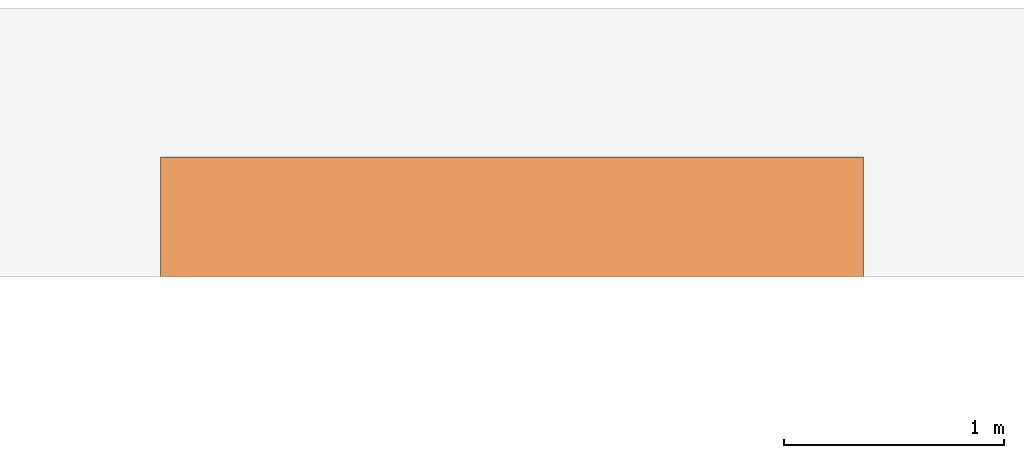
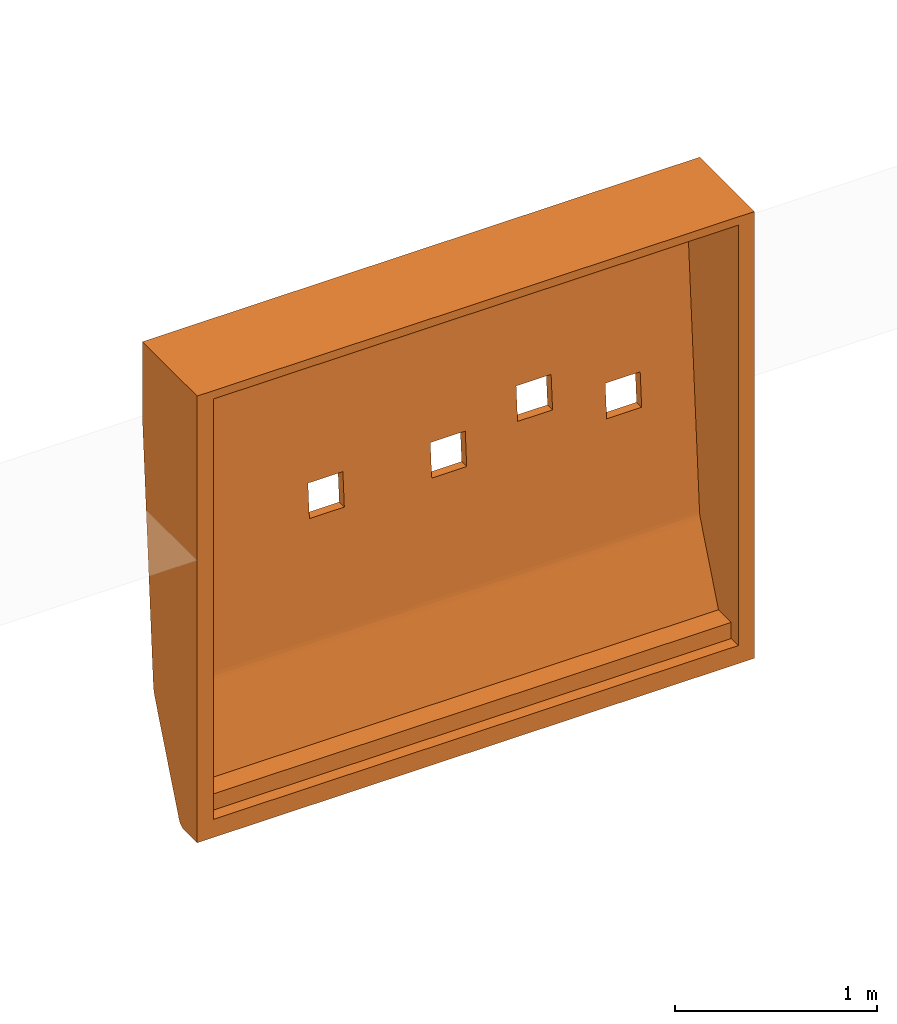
# One storey, part 19 of 19: 1 proxy.
"""IFC4 building model written with IfcOpenShell, lengths in metres."""

import ifcopenshell
import ifcopenshell.guid

model = None  # the IFC model being written
_history = None  # IfcOwnerHistory: only IFC2X3 demands one
_inside = {}  # id of a spatial element -> (the spatial element, [elements in it])
_under = {}  # id of a project, library or spatial element -> (it, [spatial elements below it])
_declared = {}  # id of a project -> (the project, [libraries it declares])
_typed = {}  # id of a type object -> (the type object, [elements of that type])
_made_of = {}  # id of a material, layer set ... -> (it, [elements and type objects made of it])


def new_model(schema):
    """Start an empty IFC model of exactly this schema.

    Asked for "IFC4X3", IfcOpenShell would pick the latest addendum, in which some entities
    have other attributes; the version numbers below select the first issue.
    IFC2X3 requires an IfcOwnerHistory on every rooted entity: one is made here for all.
    """
    global model, _history
    if schema == "IFC4X3":
        model = ifcopenshell.file(schema_version=(4, 3, 0, 0))
    else:
        model = ifcopenshell.file(schema=schema)
    _inside.clear()
    _under.clear()
    _declared.clear()
    _typed.clear()
    _made_of.clear()
    _history = None
    if model.schema == "IFC2X3":
        org = make("IfcOrganization", Name="unknown")
        user = make(
            "IfcPersonAndOrganization",
            ThePerson=make("IfcPerson", FamilyName="unknown"),
            TheOrganization=org,
        )
        app = make(
            "IfcApplication",
            ApplicationDeveloper=org,
            Version="unknown",
            ApplicationFullName="unknown",
            ApplicationIdentifier="unknown",
        )
        _history = make(
            "IfcOwnerHistory",
            OwningUser=user,
            OwningApplication=app,
            ChangeAction="ADDED",
            CreationDate=0,
        )
    return model


def make(cls, **values):
    """One entity of the class cls with the attributes given. An attribute that is None is left unset."""
    return model.create_entity(
        cls, **{name: value for name, value in values.items() if value is not None}
    )


def entity(cls, *values):
    """Any entity or typed value of the class cls, its attributes in the order of the schema. None: left unset."""
    e = model.create_entity(cls)
    for i, value in enumerate(values):
        if value is not None:
            e[i] = value
    return e


def rooted(cls, **values):
    """An entity with a GlobalId (a new one), such as an element, a storey or a relation."""
    return make(cls, GlobalId=ifcopenshell.guid.new(), OwnerHistory=_history, **values)


def si_unit(unit_type, name, prefix=None):
    """IfcSIUnit, for example si_unit("LENGTHUNIT", "METRE", prefix="MILLI")."""
    return make("IfcSIUnit", UnitType=unit_type, Prefix=prefix, Name=name)


def converted_unit(unit_type, name, factor, base, dimensions=None, offset=None):
    """IfcConversionBasedUnit, such as the inch: factor (a typed value) times the base unit."""
    return make(
        "IfcConversionBasedUnit"
        if offset is None
        else "IfcConversionBasedUnitWithOffset",
        ConversionOffset=offset,
        Dimensions=None
        if dimensions is None
        else entity("IfcDimensionalExponents", *dimensions),
        UnitType=unit_type,
        Name=name,
        ConversionFactor=make(
            "IfcMeasureWithUnit", ValueComponent=factor, UnitComponent=base
        ),
    )


def derived_unit(unit_type, elements):
    """IfcDerivedUnit: a product of units, each with its exponent."""
    return make(
        "IfcDerivedUnit",
        Elements=[
            make("IfcDerivedUnitElement", Unit=unit, Exponent=power)
            for unit, power in elements
        ],
        UnitType=unit_type,
    )


def assignment(units):
    """IfcUnitAssignment: the units of a project."""
    return None if units is None else make("IfcUnitAssignment", Units=units)


def point(xyz):
    """IfcCartesianPoint."""
    return None if xyz is None else make("IfcCartesianPoint", Coordinates=xyz)


def direction(xyz):
    """IfcDirection."""
    return None if xyz is None else make("IfcDirection", DirectionRatios=xyz)


def frame(location, z_axis=None, x_axis=None):
    """IfcAxis2Placement3D, a coordinate frame: its origin and axes. An axis left out is left unset."""
    return make(
        "IfcAxis2Placement3D",
        Location=point(location),
        Axis=direction(z_axis),
        RefDirection=direction(x_axis),
    )


def origin():
    """The frame at (0, 0, 0) with its axes left unset."""
    return frame((0.0, 0.0, 0.0))


def place(relative_to, where):
    """IfcLocalPlacement: puts the frame where relative to a parent placement (None: the world)."""
    return make(
        "IfcLocalPlacement", PlacementRelTo=relative_to, RelativePlacement=where
    )


def context(
    kind, dimensions, precision=None, world=None, true_north=None, identifier=None
):
    """IfcGeometricRepresentationContext, for example the 3D "Model" context."""
    return make(
        "IfcGeometricRepresentationContext",
        ContextIdentifier=identifier,
        ContextType=kind,
        CoordinateSpaceDimension=dimensions,
        Precision=precision,
        WorldCoordinateSystem=world,
        TrueNorth=true_north,
    )


def subcontext(parent, identifier, kind, view, scale=None):
    """IfcGeometricRepresentationSubContext, for example "Body" below "Model"."""
    return make(
        "IfcGeometricRepresentationSubContext",
        ContextIdentifier=identifier,
        ContextType=kind,
        ParentContext=parent,
        TargetScale=scale,
        TargetView=view,
    )


def project(units=None, contexts=None):
    """IfcProject with its units and contexts."""
    return rooted(
        "IfcProject",
        Name="project",
        RepresentationContexts=contexts,
        UnitsInContext=assignment(units),
    )


def spatial(cls, under=None, at=None, **own):
    """A site, building, storey or space (cls), placed at a placement, below another one or the project."""
    s = rooted(cls, ObjectPlacement=at, **own)
    if under is not None:
        _under.setdefault(under.id(), (under, []))[1].append(s)
    return s


def point_list(points):
    """IfcCartesianPointList2D or 3D."""
    cls = (
        "IfcCartesianPointList2D" if len(points[0]) == 2 else "IfcCartesianPointList3D"
    )
    return make(cls, CoordList=points)


def polygons(points, faces, closed=None, point_numbers=None):
    """IfcPolygonalFaceSet: a face is its outer loop, then its inner loops; points numbered from 1."""
    made = []
    for loops in faces:
        if len(loops) == 1:
            made.append(make("IfcIndexedPolygonalFace", CoordIndex=loops[0]))
        else:
            made.append(
                make(
                    "IfcIndexedPolygonalFaceWithVoids",
                    CoordIndex=loops[0],
                    InnerCoordIndices=loops[1:],
                )
            )
    return make(
        "IfcPolygonalFaceSet",
        Coordinates=point_list(points),
        Closed=closed,
        Faces=made,
        PnIndex=point_numbers,
    )


def shape(context_of_items, identifier, shape_type, items):
    """IfcShapeRepresentation: the items that make up one representation, for example the "Body"."""
    return make(
        "IfcShapeRepresentation",
        ContextOfItems=context_of_items,
        RepresentationIdentifier=identifier,
        RepresentationType=shape_type,
        Items=items,
    )


def source(mapping_origin, context_of_items, identifier, shape_type, items):
    """IfcRepresentationMap: a shape defined once, which mapped items show again and again."""
    return make(
        "IfcRepresentationMap",
        MappingOrigin=mapping_origin,
        MappedRepresentation=shape(context_of_items, identifier, shape_type, items),
    )


def transform(
    local_origin,
    x_axis=None,
    y_axis=None,
    z_axis=None,
    scale=None,
    scale2=None,
    scale3=None,
    uniform=True,
):
    """IfcCartesianTransformationOperator3D, or its non-uniform kind. x_axis, y_axis, z_axis: its Axis1, 2, 3."""
    if uniform:
        return make(
            "IfcCartesianTransformationOperator3D",
            Axis1=direction(x_axis),
            Axis2=direction(y_axis),
            LocalOrigin=point(local_origin),
            Scale=scale,
            Axis3=direction(z_axis),
        )
    return make(
        "IfcCartesianTransformationOperator3DnonUniform",
        Axis1=direction(x_axis),
        Axis2=direction(y_axis),
        LocalOrigin=point(local_origin),
        Scale=scale,
        Axis3=direction(z_axis),
        Scale2=scale2,
        Scale3=scale3,
    )


def mapped(mapping_source, mapping_target):
    """IfcMappedItem: shows the shape of a source again, moved by a transform."""
    return make(
        "IfcMappedItem", MappingSource=mapping_source, MappingTarget=mapping_target
    )


def material(Name=None, Category=None):
    """IfcMaterial."""
    return make("IfcMaterial", Name=Name, Category=Category)


def made_of(thing, what):
    """Note that an element or type object is made of a material, layer set ...; save() writes the relation."""
    if what is not None:
        _made_of.setdefault(what.id(), (what, []))[1].append(thing)
    return thing


def type_object(cls, material=None, **own):
    """A type object (cls), such as IfcWallType, which elements share."""
    return made_of(rooted(cls, **own), material)


def type_shapes(of_type, sources):
    """Give a type object the sources (RepresentationMaps) that its elements show as mapped items."""
    of_type.RepresentationMaps = sources


def element(
    cls,
    number,
    at=None,
    inside=None,
    cuts=None,
    type_object=None,
    material=None,
    context=None,
    identifier="Body",
    shape_type=None,
    held_by="IfcProductDefinitionShape",
    body=None,
    shapes=None,
    **own,
):
    """One element of the class cls, such as IfcWall. Its Tag is "e" and its number.

    at: its placement. inside: the storey or other place that contains it. cuts: it is an
    opening in that element (IfcRelVoidsElement). A single representation is given by context,
    identifier, shape_type and body (its items); several are given by shapes. held_by: the class
    of the entity that holds the representations. save() writes the other relations.
    """
    e = rooted(cls, Tag="e%d" % number, ObjectPlacement=at, **own)
    if body is not None:
        shapes = [shape(context, identifier, shape_type, body)]
    if shapes is not None:
        e.Representation = make(held_by, Representations=shapes)
    if inside is not None:
        _inside.setdefault(inside.id(), (inside, []))[1].append(e)
    if cuts is not None:
        rooted(
            "IfcRelVoidsElement", RelatingBuildingElement=cuts, RelatedOpeningElement=e
        )
    if type_object is not None:
        _typed.setdefault(type_object.id(), (type_object, []))[1].append(e)
    return made_of(e, material)


def aggregate(whole, parts):
    """IfcRelAggregates: a whole, such as a stair, and the parts it consists of."""
    return rooted("IfcRelAggregates", RelatingObject=whole, RelatedObjects=parts)


def save(model, path):
    """Write the relations noted so far, then the file.

    IfcRelAggregates (storeys below a building ...), IfcRelContainedInSpatialStructure (elements
    in a storey), IfcRelDefinesByType, IfcRelAssociatesMaterial and IfcRelDeclares: one each for
    every whole, place, type object, material and project.
    """
    for whole, parts in _under.values():
        aggregate(whole, parts)
    for where, things in _inside.values():
        rooted(
            "IfcRelContainedInSpatialStructure",
            RelatedElements=things,
            RelatingStructure=where,
        )
    for kind, things in _typed.values():
        rooted("IfcRelDefinesByType", RelatedObjects=things, RelatingType=kind)
    for what, things in _made_of.values():
        rooted("IfcRelAssociatesMaterial", RelatedObjects=things, RelatingMaterial=what)
    for by, libraries in _declared.values():
        rooted("IfcRelDeclares", RelatingContext=by, RelatedDefinitions=libraries)
    model.write(path)


model = new_model("IFC4")

# Units and contexts
model_context = context("Model", 3, precision=1e-05, world=origin(), true_north=direction((6.12303176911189e-17, 1.0)))
body_context = subcontext(model_context, "Body", "Model", "MODEL_VIEW")
ifc_project = project(units=[si_unit("LENGTHUNIT", "METRE"), si_unit("AREAUNIT", "SQUARE_METRE"), si_unit("VOLUMEUNIT", "CUBIC_METRE"), converted_unit("PLANEANGLEUNIT", "DEGREE", entity("IfcRatioMeasure", 0.0174532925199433), si_unit("PLANEANGLEUNIT", "RADIAN"), dimensions=[0, 0, 0, 0, 0, 0, 0]), si_unit("MASSUNIT", "GRAM", prefix="KILO"), derived_unit("MASSDENSITYUNIT", [(si_unit("MASSUNIT", "GRAM", prefix="KILO"), 1), (si_unit("LENGTHUNIT", "METRE"), -3)]), derived_unit("MOMENTOFINERTIAUNIT", [(si_unit("LENGTHUNIT", "METRE"), 4)]), si_unit("TIMEUNIT", "SECOND"), si_unit("FREQUENCYUNIT", "HERTZ"), si_unit("THERMODYNAMICTEMPERATUREUNIT", "DEGREE_CELSIUS"), derived_unit("THERMALTRANSMITTANCEUNIT", [(si_unit("MASSUNIT", "GRAM", prefix="KILO"), 1), (si_unit("THERMODYNAMICTEMPERATUREUNIT", "KELVIN"), -1), (si_unit("TIMEUNIT", "SECOND"), -3)]), derived_unit("VOLUMETRICFLOWRATEUNIT", [(si_unit("LENGTHUNIT", "METRE"), 3), (si_unit("TIMEUNIT", "SECOND"), -1)]), si_unit("ELECTRICCURRENTUNIT", "AMPERE"), si_unit("ELECTRICVOLTAGEUNIT", "VOLT"), si_unit("POWERUNIT", "WATT"), si_unit("FORCEUNIT", "NEWTON", prefix="KILO"), si_unit("ILLUMINANCEUNIT", "LUX"), si_unit("LUMINOUSFLUXUNIT", "LUMEN"), si_unit("LUMINOUSINTENSITYUNIT", "CANDELA"), derived_unit("USERDEFINED", [(si_unit("MASSUNIT", "GRAM", prefix="KILO"), -1), (si_unit("LENGTHUNIT", "METRE"), -2), (si_unit("TIMEUNIT", "SECOND"), 3), (si_unit("LUMINOUSFLUXUNIT", "LUMEN"), 1)]), derived_unit("LINEARVELOCITYUNIT", [(si_unit("LENGTHUNIT", "METRE"), 1), (si_unit("TIMEUNIT", "SECOND"), -1)]), si_unit("PRESSUREUNIT", "PASCAL"), derived_unit("USERDEFINED", [(si_unit("LENGTHUNIT", "METRE"), -2), (si_unit("MASSUNIT", "GRAM", prefix="KILO"), 1), (si_unit("TIMEUNIT", "SECOND"), -2)]), derived_unit("LINEARFORCEUNIT", [(si_unit("MASSUNIT", "GRAM", prefix="KILO"), 1), (si_unit("LENGTHUNIT", "METRE"), 1), (si_unit("TIMEUNIT", "SECOND"), -2), (si_unit("LENGTHUNIT", "METRE"), -1)]), derived_unit("PLANARFORCEUNIT", [(si_unit("MASSUNIT", "GRAM", prefix="KILO"), 1), (si_unit("LENGTHUNIT", "METRE"), 1), (si_unit("TIMEUNIT", "SECOND"), -2), (si_unit("LENGTHUNIT", "METRE"), -2)])], contexts=[model_context])

# Site, building, storey
site_placement = place(None, origin())
site = spatial("IfcSite", under=ifc_project, at=site_placement, Name="Default", CompositionType="ELEMENT")
building_placement = place(site_placement, origin())
building = spatial("IfcBuilding", under=site, at=building_placement, Name="HOTEL CONSULAIRE BOULOGNE SUR MER", CompositionType="ELEMENT")
storey_placement = place(building_placement, frame((0.0, 0.0, -4.01003075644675)))
storey = spatial("IfcBuildingStorey", under=building, at=storey_placement, Name="SS2", CompositionType="ELEMENT", Elevation=-4.01003075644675)

# Proxy
ifc_material = material(Name="PEINTURE ROSE")
building_element_proxy_type = type_object("IfcBuildingElementProxyType", Name="cabine de projection:cabine de projection", PredefinedType="NOTDEFINED", material=ifc_material)
shared_shape = source(origin(), body_context, "Body", "Tessellation", [
    polygons([(3.09942939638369, 0.0700000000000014, 0.111065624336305), (3.09942939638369, 0.0, 0.111065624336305), (3.09942939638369, 0.0, 0.00159527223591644), (3.09942939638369, 0.131028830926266, 0.0015952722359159), (3.09942939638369, 0.143256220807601, 0.00305330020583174), (3.09942939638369, 0.15479792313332, 0.00734562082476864), (3.09942939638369, 0.16500670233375, 0.0142315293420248), (3.09942939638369, 0.173310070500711, 0.0233248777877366), (3.09942939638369, 0.179242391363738, 0.0341157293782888), (3.09942939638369, 0.421371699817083, 0.633406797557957), (3.09942939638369, 0.430006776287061, 0.660793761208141), (3.09942939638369, 0.43425127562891, 0.689194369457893), (3.09942939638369, 0.5432430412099, 2.24784923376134), (3.09942939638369, 0.5432430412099, 2.70713574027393), (3.09942939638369, 0.0, 2.70713574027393), (3.09942939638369, 0.0, 2.65713574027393), (3.09942939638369, 0.44703769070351, 2.65713574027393), (3.09942939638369, 0.44703769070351, 2.34259527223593), (3.09942939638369, 0.493243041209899, 2.34259527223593), (3.09942939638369, 0.493243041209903, 2.24959527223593), (3.09942939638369, 0.38437307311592, 0.6926821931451), (3.09942939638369, 0.381288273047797, 0.672041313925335), (3.09942939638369, 0.37501250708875, 0.652137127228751), (3.09942939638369, 0.196000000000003, 0.209065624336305), (3.09942939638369, 0.0700000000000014, 0.209065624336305), (0.0928703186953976, 0.0700000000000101, 0.111065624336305), (0.0928703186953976, 0.0700000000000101, 0.209065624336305), (0.0928703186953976, 0.196000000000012, 0.209065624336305), (0.0928703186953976, 0.375012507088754, 0.652137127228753), (0.0928703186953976, 0.381288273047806, 0.672041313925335), (0.0928703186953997, 0.384373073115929, 0.692682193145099), (0.0928703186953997, 0.493243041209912, 2.24959527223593), (0.0928703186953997, 0.493243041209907, 2.34259527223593), (0.0928703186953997, 0.447037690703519, 2.34259527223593), (0.0928703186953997, 0.447037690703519, 2.65713574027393), (0.0928703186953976, 8.66293703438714e-15, 2.65713574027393), (0.0928703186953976, 8.66293703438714e-15, 2.70713574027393), (0.0928703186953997, 0.543243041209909, 2.70713574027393), (0.0928703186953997, 0.543243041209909, 2.24784923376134), (0.0928703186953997, 0.434251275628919, 0.689194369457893), (0.0928703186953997, 0.430006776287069, 0.660793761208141), (0.0928703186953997, 0.421371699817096, 0.633406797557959), (0.0928703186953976, 0.179242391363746, 0.0341157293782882), (0.0928703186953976, 0.17331007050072, 0.0233248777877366), (0.0928703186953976, 0.165006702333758, 0.0142315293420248), (0.0928703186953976, 0.154797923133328, 0.00734562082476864), (0.0928703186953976, 0.143256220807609, 0.00305330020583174), (0.0928703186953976, 0.131028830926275, 0.0015952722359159), (0.0928703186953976, 8.66293703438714e-15, 0.00159527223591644), (0.0928703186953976, 8.66293703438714e-15, 0.111065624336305), (1.0851081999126, 0.179242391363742, 0.0341157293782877), (1.59614985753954, 0.13102883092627, 0.0015952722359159), (1.10003263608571, 0.13102883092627, 0.0015952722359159), (2.09226879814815, 0.179242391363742, 0.0341157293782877), (2.09226707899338, 0.13102883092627, 0.0015952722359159), (0.807353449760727, 0.160106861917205, 0.0104853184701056), (2.38071952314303, 0.160106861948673, 0.0104853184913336), (0.596453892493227, 0.179242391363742, 0.0341157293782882), (0.596450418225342, 0.131028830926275, 0.0015952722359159), (2.59584909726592, 0.179242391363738, 0.0341157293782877), (2.59584929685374, 0.131028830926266, 0.0015952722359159), (0.488018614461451, 0.169428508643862, 0.0185315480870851), (0.488018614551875, 0.149154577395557, 0.0048566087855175), (2.70421961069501, 0.169428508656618, 0.0185315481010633), (2.7042196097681, 0.149154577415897, 0.0048566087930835), (1.34809086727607, 0.153574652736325, 0.00673712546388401), (0.358985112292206, 0.160106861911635, 0.0104853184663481), (2.83329452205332, 0.16010686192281, 0.0104853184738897), (0.34466374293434, 0.179242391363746, 0.0341157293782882), (0.344661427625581, 0.131028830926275, 0.0015952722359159), (2.8476392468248, 0.179242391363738, 0.0341157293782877), (2.8476382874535, 0.131028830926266, 0.0015952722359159), (1.84420884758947, 0.150547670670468, 0.00539760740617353), (1.58868849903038, 0.179242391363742, 0.0341157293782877), (1.84047744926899, 0.16892870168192, 0.0179919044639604), (0.853897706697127, 0.144312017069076, 0.00332045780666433), (0.850587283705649, 0.172558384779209, 0.0223015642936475), (1.28258485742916, 0.169610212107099, 0.0187315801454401), (2.33860749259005, 0.172676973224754, 0.0224595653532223), (2.34405822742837, 0.143927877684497, 0.00322053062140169), (0.470555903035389, 0.17549634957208, 0.026639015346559), (0.470555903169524, 0.139364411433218, 0.00226771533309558), (2.72174381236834, 0.175496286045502, 0.0266389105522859), (2.72174381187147, 0.139364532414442, 0.00226773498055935), (1.34809124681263, 0.13102883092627, 0.0015952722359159), (1.22406137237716, 0.142591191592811, 0.00289702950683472), (1.06163108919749, 0.15285685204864, 0.00639847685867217), (1.50900643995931, 0.143396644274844, 0.00308747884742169), (1.06832477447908, 0.16368545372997, 0.0131286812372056), (1.60138656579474, 0.153574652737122, 0.00673712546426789), (1.47473871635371, 0.163043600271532, 0.0126190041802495), (1.56532128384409, 0.17213354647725, 0.0217455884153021), (1.78453914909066, 0.160403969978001, 0.0106872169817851), (2.08347516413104, 0.162656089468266, 0.0123191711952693), (1.33689834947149, 0.179242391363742, 0.0341157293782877), (1.84420846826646, 0.13102883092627, 0.0015952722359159), (1.9682383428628, 0.140971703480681, 0.00255470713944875), (2.12131457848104, 0.151123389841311, 0.00563478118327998), (1.73415248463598, 0.140478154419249, 0.00246103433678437), (1.21100147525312, 0.175428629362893, 0.0265276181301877), (1.06527408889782, 0.170959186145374, 0.0202851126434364), (1.84047864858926, 0.179242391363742, 0.0341157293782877), (1.96637264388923, 0.174833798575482, 0.0255751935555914), (1.74969722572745, 0.175138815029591, 0.0260578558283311), (0.583169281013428, 0.162265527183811, 0.0120228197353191), (2.60700702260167, 0.157912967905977, 0.00908411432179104), (0.848241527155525, 0.13102883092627, 0.0015952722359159), (0.840781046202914, 0.179242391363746, 0.0341157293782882), (2.34405894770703, 0.179242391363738, 0.0341157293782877), (2.34405818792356, 0.13102883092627, 0.00159527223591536), (1.26905670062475, 0.161298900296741, 0.0113137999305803), (1.98226662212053, 0.421371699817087, 0.633406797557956), (1.5961548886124, 0.434251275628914, 0.689194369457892), (2.3477971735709, 0.43425127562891, 0.689194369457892), (2.62708209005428, 0.43425127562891, 0.689194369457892), (1.037563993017, 0.421371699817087, 0.633406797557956), (2.54084800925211, 0.421371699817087, 0.633406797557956), (2.26155731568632, 0.421371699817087, 0.633406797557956), (0.844512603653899, 0.434251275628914, 0.689194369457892), (1.5099108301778, 0.421371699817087, 0.633406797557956), (0.565217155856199, 0.421371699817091, 0.633406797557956), (0.468691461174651, 0.434251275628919, 0.689194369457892), (2.86325597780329, 0.421371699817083, 0.633406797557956), (0.329043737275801, 0.421371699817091, 0.633406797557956), (2.86326077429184, 0.43425127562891, 0.689194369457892), (0.329049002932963, 0.434251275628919, 0.689194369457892), (0.398867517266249, 0.430006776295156, 0.66079376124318), (0.656602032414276, 0.434251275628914, 0.689194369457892), (0.801390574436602, 0.421371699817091, 0.633406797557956), (0.750555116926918, 0.43024495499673, 0.66183939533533), (1.22033374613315, 0.434251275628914, 0.689194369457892), (0.980663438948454, 0.430579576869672, 0.663358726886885), (1.2737374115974, 0.421371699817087, 0.633406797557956), (1.40824431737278, 0.43425127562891, 0.689194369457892), (1.31428494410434, 0.430280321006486, 0.661997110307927), (1.97197603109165, 0.434251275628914, 0.689194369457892), (2.74516762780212, 0.430006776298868, 0.660793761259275), (2.52904235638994, 0.430365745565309, 0.662380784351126), (2.12191179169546, 0.430121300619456, 0.661293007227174), (1.90505175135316, 0.42994925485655, 0.660545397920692), (1.7460842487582, 0.421371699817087, 0.633406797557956), (1.62800465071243, 0.429494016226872, 0.658632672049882), (1.78406545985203, 0.434251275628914, 0.689194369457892), (1.03242317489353, 0.434251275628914, 0.689194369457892), (2.32582987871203, 0.429669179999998, 0.659357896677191), (2.15988660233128, 0.434251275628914, 0.689194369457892), (2.59636625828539, 0.498192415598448, 1.6035952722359), (2.59636625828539, 0.483787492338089, 1.39759527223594), (2.79636625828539, 0.483787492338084, 1.39759527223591), (2.79636625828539, 0.498192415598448, 1.60359527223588), (2.09239365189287, 0.508966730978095, 1.75767516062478), (2.09239365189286, 0.494561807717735, 1.55167516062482), (2.29239365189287, 0.494561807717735, 1.5516751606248), (2.29239365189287, 0.508966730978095, 1.75767516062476), (1.59404003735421, 0.497643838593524, 1.59575025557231), (1.59404003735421, 0.48323891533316, 1.38975025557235), (1.79404003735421, 0.48323891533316, 1.38975025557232), (1.79404003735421, 0.497643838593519, 1.59575025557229), (0.893040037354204, 0.497643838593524, 1.59575025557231), (0.893040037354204, 0.483238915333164, 1.38975025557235), (1.0930400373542, 0.48323891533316, 1.38975025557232), (1.0930400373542, 0.497643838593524, 1.59575025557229), (2.59636625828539, 0.43366539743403, 1.39759527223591), (2.59636625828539, 0.448070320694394, 1.6035952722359), (2.79636625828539, 0.448070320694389, 1.6035952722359), (2.79636625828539, 0.433665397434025, 1.3975952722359), (2.09239365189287, 0.444439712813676, 1.55167516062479), (2.09239365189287, 0.45884463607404, 1.75767516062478), (2.29239365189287, 0.45884463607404, 1.75767516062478), (2.29239365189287, 0.444439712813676, 1.55167516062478), (1.59404003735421, 0.433116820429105, 1.38975025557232), (1.59404003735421, 0.447521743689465, 1.59575025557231), (1.79404003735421, 0.447521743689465, 1.59575025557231), (1.79404003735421, 0.433116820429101, 1.38975025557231), (0.893040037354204, 0.433116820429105, 1.38975025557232), (0.893040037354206, 0.447521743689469, 1.59575025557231), (1.0930400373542, 0.447521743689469, 1.59575025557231), (1.0930400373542, 0.433116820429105, 1.38975025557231), (1.48869732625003, 0.384373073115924, 0.6926821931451), (1.59614987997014, 0.37501250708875, 0.652137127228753), (0.844510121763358, 0.37501250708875, 0.652137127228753), (0.495553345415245, 0.375012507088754, 0.652137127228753), (2.29406344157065, 0.384373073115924, 0.6926821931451), (0.790783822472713, 0.384373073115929, 0.6926821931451), (2.34778963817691, 0.37501250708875, 0.652137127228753), (0.44182699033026, 0.384373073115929, 0.6926821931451), (2.69674649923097, 0.38437307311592, 0.6926821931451), (2.7236095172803, 0.375012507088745, 0.652137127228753), (2.5356996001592, 0.375012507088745, 0.652137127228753), (0.294211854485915, 0.375012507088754, 0.652137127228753), (2.89808786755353, 0.38437307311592, 0.6926821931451), (2.89808790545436, 0.375012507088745, 0.652137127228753), (1.97196975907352, 0.37501250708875, 0.652137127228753), (1.89138038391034, 0.38437307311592, 0.6926821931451), (2.0927219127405, 0.384373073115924, 0.6926821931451), (0.294211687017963, 0.384373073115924, 0.6926821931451), (1.22033000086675, 0.37501250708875, 0.652137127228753), (1.13974065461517, 0.384373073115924, 0.6926821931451), (1.3142189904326, 0.384373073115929, 0.6926821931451), (1.40823991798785, 0.37501250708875, 0.652137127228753), (0.368019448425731, 0.381288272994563, 0.672041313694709), (2.49540497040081, 0.384373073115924, 0.6926821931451), (2.81084870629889, 0.381288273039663, 0.672041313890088), (2.15987967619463, 0.37501250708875, 0.652137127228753), (0.616305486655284, 0.384373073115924, 0.6926821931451), (0.670031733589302, 0.375012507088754, 0.652137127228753), (2.64986727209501, 0.381113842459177, 0.671295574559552), (0.582792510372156, 0.380934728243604, 0.670549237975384), (0.743793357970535, 0.381114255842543, 0.671297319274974), (0.965262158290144, 0.384373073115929, 0.6926821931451), (1.03242008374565, 0.375012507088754, 0.652137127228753), (1.22697981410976, 0.381678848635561, 0.673786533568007), (1.38473610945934, 0.381519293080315, 0.673060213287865), (1.06787836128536, 0.381492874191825, 0.672941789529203), (0.904137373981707, 0.381297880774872, 0.672082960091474), (1.54262727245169, 0.381290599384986, 0.672051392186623), (1.78405984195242, 0.37501250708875, 0.652137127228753), (1.69003885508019, 0.384373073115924, 0.6926821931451), (2.44174460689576, 0.380964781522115, 0.670673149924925), (2.28680434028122, 0.381090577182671, 0.671197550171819), (2.06592472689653, 0.380843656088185, 0.670176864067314), (1.91056512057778, 0.381104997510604, 0.671258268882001), (0.230444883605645, 0.380475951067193, 0.668718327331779), (2.95513905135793, 0.381753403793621, 0.674132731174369), (1.75403548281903, 0.381456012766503, 0.672777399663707)], [[[14, 15, 16, 17, 18, 19, 20, 21, 22, 23, 24, 25, 1, 2, 3, 4, 5, 6, 7, 8, 9, 10, 11, 12, 13]], [[148, 147, 164, 163]], [[152, 151, 168, 167]], [[156, 155, 172, 171]], [[160, 159, 176, 175]], [[43, 44, 45, 46, 47, 48, 49, 50, 26, 27, 28, 29, 30, 31, 32, 33, 34, 35, 36, 37, 38, 39, 40, 41, 42]], [[149, 166, 165, 150]], [[153, 170, 169, 154]], [[157, 174, 173, 158]], [[161, 178, 177, 162]], [[2, 1, 26, 50]], [[15, 14, 38, 37]], [[25, 24, 28, 27]], [[149, 148, 163, 166]], [[153, 152, 167, 170]], [[156, 171, 174, 157]], [[160, 175, 178, 161]], [[3, 2, 50, 49]], [[16, 15, 37, 36]], [[18, 17, 35, 34]], [[20, 19, 33, 32]], [[1, 25, 27, 26]], [[4, 3, 49, 48, 70, 59, 107, 53, 85, 52, 96, 55, 110, 61, 72]], [[17, 16, 36, 35]], [[19, 18, 34, 33]], [[147, 150, 165, 164]], [[151, 154, 169, 168]], [[155, 158, 173, 172]], [[159, 162, 177, 176]], [[84, 80, 65]], [[82, 47, 63]], [[46, 45, 67]], [[45, 44, 62]], [[65, 6, 5]], [[63, 47, 46]], [[76, 59, 82]], [[63, 46, 67]], [[56, 105, 77]], [[85, 86, 88]], [[105, 63, 67]], [[88, 52, 85]], [[84, 72, 61]], [[85, 53, 86]], [[97, 99, 73]], [[66, 91, 90]], [[60, 83, 79]], [[8, 7, 64]], [[89, 111, 87]], [[5, 4, 72]], [[70, 48, 47]], [[44, 43, 69]], [[71, 9, 8]], [[64, 7, 68]], [[83, 8, 64]], [[81, 69, 58]], [[77, 58, 108, 51]], [[76, 63, 56]], [[71, 83, 60]], [[68, 7, 6]], [[79, 64, 57]], [[80, 61, 110, 55]], [[106, 64, 68]], [[51, 101, 77]], [[93, 94, 73]], [[45, 62, 67]], [[105, 67, 62]], [[6, 65, 68]], [[106, 68, 65]], [[70, 82, 59]], [[69, 81, 44]], [[72, 84, 5]], [[98, 80, 97]], [[75, 92, 104]], [[102, 104, 74]], [[97, 55, 96]], [[86, 87, 66]], [[76, 53, 107, 59]], [[77, 62, 81]], [[100, 101, 51]], [[100, 92, 78]], [[91, 92, 75]], [[79, 57, 94]], [[79, 54, 109, 60]], [[80, 55, 97]], [[106, 80, 57]], [[77, 81, 58]], [[44, 81, 62]], [[47, 82, 70]], [[76, 82, 63]], [[8, 83, 71]], [[79, 83, 64]], [[80, 84, 61]], [[5, 84, 65]], [[66, 88, 86]], [[53, 76, 86]], [[87, 86, 76]], [[76, 56, 87]], [[89, 87, 56]], [[90, 88, 66]], [[73, 99, 90]], [[77, 89, 56]], [[78, 91, 111]], [[66, 111, 91]], [[93, 73, 90]], [[92, 91, 78]], [[93, 91, 75]], [[100, 51, 95]], [[102, 103, 104]], [[91, 93, 90]], [[94, 93, 75]], [[94, 75, 103]], [[57, 80, 98]], [[99, 97, 96]], [[74, 92, 95]], [[88, 99, 52]], [[97, 73, 98]], [[73, 94, 98]], [[57, 98, 94]], [[52, 99, 96]], [[99, 88, 90]], [[92, 100, 95]], [[100, 78, 101]], [[78, 89, 101]], [[89, 77, 101]], [[54, 79, 103]], [[103, 102, 54]], [[94, 103, 79]], [[75, 104, 103]], [[74, 104, 92]], [[77, 105, 62]], [[63, 105, 56]], [[80, 106, 65]], [[64, 106, 57]], [[87, 111, 66]], [[78, 111, 89]], [[9, 71, 60, 109, 54, 102, 74, 95, 51, 108, 58, 69, 43, 42, 124, 121, 129, 116, 133, 120, 141, 112, 118, 117, 123, 10]], [[130, 132, 129]], [[41, 40, 126, 122, 128, 127]], [[125, 12, 11, 137, 115]], [[130, 127, 128]], [[137, 11, 10, 123, 117]], [[124, 42, 41, 127, 121]], [[140, 136, 139]], [[137, 117, 138]], [[140, 139, 112]], [[135, 120, 133, 116]], [[137, 138, 115]], [[118, 139, 145]], [[140, 141, 142]], [[132, 130, 119]], [[128, 119, 130]], [[134, 113, 143, 142]], [[130, 121, 127]], [[121, 130, 129]], [[132, 116, 129]], [[132, 119, 144, 131]], [[131, 135, 132]], [[134, 135, 131]], [[132, 135, 116]], [[134, 142, 135]], [[118, 112, 139]], [[145, 117, 118]], [[114, 115, 138]], [[145, 146, 114]], [[145, 114, 138]], [[141, 120, 142]], [[142, 143, 140]], [[140, 112, 141]], [[135, 142, 120]], [[139, 146, 145]], [[143, 136, 140]], [[117, 145, 138]], [[139, 136, 146]], [[12, 125, 115, 114, 146, 136, 143, 113, 134, 131, 144, 119, 128, 122, 126, 40, 39, 13], [149, 150, 147, 148], [157, 158, 155, 156], [161, 162, 159, 160], [151, 152, 153, 154]], [[14, 13, 39, 38]], [[20, 32, 31, 196, 186, 205, 184, 210, 198, 199, 179, 218, 194, 195, 183, 202, 187, 191, 21], [166, 163, 164, 165], [169, 170, 167, 168], [172, 173, 174, 171], [177, 178, 175, 176]], [[216, 213, 200]], [[208, 206, 209]], [[196, 201, 186]], [[203, 191, 187]], [[224, 22, 21]], [[208, 205, 186]], [[180, 216, 200]], [[213, 197, 200]], [[224, 192, 23]], [[183, 195, 220]], [[215, 210, 184]], [[192, 224, 203]], [[203, 188, 192]], [[201, 190, 182]], [[189, 219, 185]], [[183, 219, 202]], [[187, 207, 203]], [[223, 196, 31]], [[223, 30, 29]], [[183, 220, 219]], [[216, 225, 218]], [[222, 221, 195]], [[223, 190, 201]], [[196, 223, 201]], [[197, 212, 214]], [[199, 198, 212]], [[208, 209, 205]], [[212, 197, 213]], [[207, 188, 203]], [[187, 202, 207]], [[191, 203, 224]], [[186, 201, 208]], [[204, 221, 193]], [[207, 189, 188]], [[206, 208, 182]], [[219, 189, 207]], [[182, 208, 201]], [[184, 205, 209]], [[211, 214, 215]], [[209, 206, 181]], [[209, 181, 215]], [[198, 214, 212]], [[213, 199, 212]], [[211, 197, 214]], [[213, 179, 199]], [[216, 179, 213]], [[181, 211, 215]], [[214, 198, 210]], [[209, 215, 184]], [[210, 215, 214]], [[195, 194, 222]], [[222, 194, 225]], [[218, 179, 216]], [[180, 225, 216]], [[220, 185, 219]], [[202, 219, 207]], [[220, 204, 185]], [[221, 204, 220]], [[222, 193, 221]], [[195, 221, 220]], [[222, 217, 193]], [[217, 222, 225]], [[190, 223, 29]], [[31, 30, 223]], [[191, 224, 21]], [[23, 22, 224]], [[180, 217, 225]], [[218, 225, 194]], [[24, 23, 192, 188, 189, 185, 204, 193, 217, 180, 200, 197, 211, 181, 206, 182, 190, 29, 28]]], closed=True),
    polygons([(3.19229971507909, 0.131028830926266, 0.0015952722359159), (3.19229971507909, 0.143256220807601, 0.00305330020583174), (3.19229971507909, 0.15479792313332, 0.00734562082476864), (3.19229971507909, 0.16500670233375, 0.0142315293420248), (3.19229971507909, 0.173310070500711, 0.0233248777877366), (3.19229971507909, 0.179242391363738, 0.0341157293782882), (3.19229971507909, 0.421371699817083, 0.633406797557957), (3.19229971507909, 0.430006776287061, 0.660793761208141), (3.19229971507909, 0.43425127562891, 0.689194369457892), (3.19229971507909, 0.543243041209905, 2.24784923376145), (3.19229971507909, 0.5432430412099, 2.70713574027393), (3.19229971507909, 0.0, 2.70713574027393), (3.19229971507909, 0.0, 0.00159527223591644), (3.09942939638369, 0.131028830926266, 0.0015952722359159), (3.09942939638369, 0.0, 0.00159527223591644), (3.09942939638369, 0.0, 2.70713574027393), (3.09942939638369, 0.5432430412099, 2.70713574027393), (3.09942939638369, 0.543243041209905, 2.24784923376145), (3.09942939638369, 0.43425127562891, 0.689194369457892), (3.09942939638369, 0.430006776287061, 0.660793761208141), (3.09942939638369, 0.421371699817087, 0.633406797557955), (3.09942939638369, 0.179242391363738, 0.0341157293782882), (3.09942939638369, 0.173310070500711, 0.0233248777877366), (3.09942939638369, 0.16500670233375, 0.0142315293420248), (3.09942939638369, 0.15479792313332, 0.00734562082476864), (3.09942939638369, 0.143256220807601, 0.00305330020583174)], [[[2, 3, 4, 5, 6, 7, 8, 9, 10, 11, 12, 13, 1]], [[16, 17, 18, 19, 20, 21, 22, 23, 24, 25, 26, 14, 15]], [[1, 14, 26, 2]], [[2, 26, 25, 3]], [[25, 24, 4, 3]], [[4, 24, 23, 5]], [[5, 23, 22, 6]], [[7, 6, 22, 21]], [[21, 20, 8, 7]], [[8, 20, 19, 9]], [[10, 9, 19, 18]], [[11, 10, 18, 17]], [[12, 11, 17, 16]], [[13, 12, 16, 15]], [[1, 13, 15, 14]]], closed=True),
    polygons([(0.0928703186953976, 0.131028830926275, 0.0015952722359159), (0.0928703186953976, 0.143256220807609, 0.00305330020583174), (0.0928703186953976, 0.154797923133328, 0.00734562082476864), (0.0928703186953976, 0.165006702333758, 0.0142315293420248), (0.0928703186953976, 0.17331007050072, 0.0233248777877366), (0.0928703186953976, 0.179242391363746, 0.0341157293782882), (0.0928703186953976, 0.421371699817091, 0.633406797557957), (0.0928703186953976, 0.430006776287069, 0.660793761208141), (0.0928703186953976, 0.434251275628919, 0.689194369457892), (0.0928703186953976, 0.543243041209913, 2.24784923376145), (0.0928703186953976, 0.543243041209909, 2.70713574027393), (0.0928703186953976, 8.66293703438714e-15, 2.70713574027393), (0.0928703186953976, 8.66293703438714e-15, 0.00159527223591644), (-2.16573425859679e-15, 0.131028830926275, 0.0015952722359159), (-2.16573425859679e-15, 8.66293703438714e-15, 0.00159527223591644), (-2.16573425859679e-15, 8.66293703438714e-15, 2.70713574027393), (-2.16573425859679e-15, 0.543243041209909, 2.70713574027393), (-2.16573425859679e-15, 0.543243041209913, 2.24784923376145), (-2.16573425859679e-15, 0.434251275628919, 0.689194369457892), (-2.16573425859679e-15, 0.430006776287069, 0.660793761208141), (-2.16573425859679e-15, 0.421371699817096, 0.633406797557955), (-2.16573425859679e-15, 0.179242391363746, 0.0341157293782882), (-2.16573425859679e-15, 0.17331007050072, 0.0233248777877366), (-2.16573425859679e-15, 0.165006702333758, 0.0142315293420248), (-2.16573425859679e-15, 0.154797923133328, 0.00734562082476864), (-2.16573425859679e-15, 0.143256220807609, 0.00305330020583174)], [[[2, 3, 4, 5, 6, 7, 8, 9, 10, 11, 12, 13, 1]], [[16, 17, 18, 19, 20, 21, 22, 23, 24, 25, 26, 14, 15]], [[1, 14, 26, 2]], [[2, 26, 25, 3]], [[25, 24, 4, 3]], [[4, 24, 23, 5]], [[5, 23, 22, 6]], [[7, 6, 22, 21]], [[21, 20, 8, 7]], [[8, 20, 19, 9]], [[10, 9, 19, 18]], [[11, 10, 18, 17]], [[12, 11, 17, 16]], [[13, 12, 16, 15]], [[1, 13, 15, 14]]], closed=True),
])
type_shapes(building_element_proxy_type, [shared_shape])
proxy_placement = place(storey_placement, frame((15.7170352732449, -27.7238231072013, 0.776998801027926)))
element("IfcBuildingElementProxy", 1, at=proxy_placement, inside=storey, type_object=building_element_proxy_type, material=ifc_material, Name="cabine de projection:cabine de projection", ObjectType="cabine de projection:cabine de projection", PredefinedType="NOTDEFINED", context=body_context, shape_type="MappedRepresentation", body=[
    mapped(shared_shape, transform((0.0, 0.0, 0.0), scale=1.0)),
])

save(model, "model.ifc")
